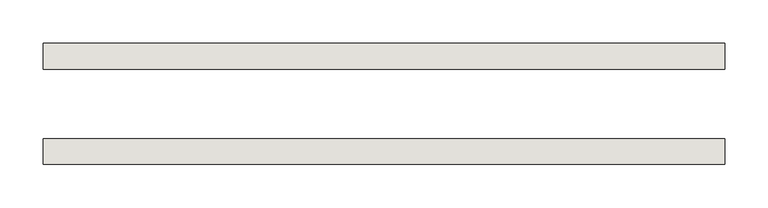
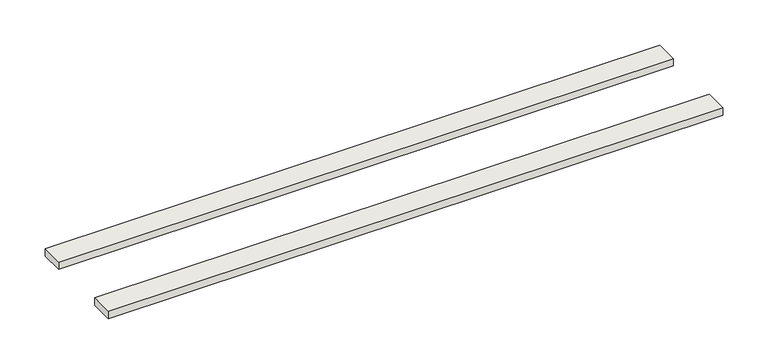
"""IFC4 building model written with IfcOpenShell, lengths in millimetres: wall geometry, Sealent : Sealent."""

from ifc_helpers import new_model, si_unit, origin, origin_with_axes, place, context, project, spatial, polyline, outline, extrude, source, transform, mapped, element, save


def wall_cd78c861(model_context):
    return source(origin(), model_context, "Body", "SweptSolid", [
        extrude(outline(polyline([(17903.9399253, 15013.3863455), (18691.0136184, 15013.3863455), (18691.0136184, 14983.3863455), (17903.9399253, 14983.3863455), (17903.9399253, 15013.3863455)])), origin_with_axes(), (0.0, 0.0, 1.0), 10.0132587),
        extrude(outline(polyline([(18691.0136184, 14903.3863455), (18691.0136184, 14873.3863455), (17903.9399253, 14873.3863455), (17903.9399253, 14903.3863455), (18691.0136184, 14903.3863455)])), origin_with_axes(), (0.0, 0.0, 1.0), 10.0132587),
    ])


if __name__ == "__main__":
    model = new_model("IFC4")
    model_context = context("Model", 3, world=origin())
    ifc_project = project(units=[si_unit("LENGTHUNIT", "METRE", prefix="MILLI")], contexts=[model_context])
    site = spatial("IfcSite", under=ifc_project)
    building = spatial("IfcBuilding", under=site)
    placement = place(None, origin())
    wall_shape = wall_cd78c861(model_context)
    element("IfcWall", 1, ObjectType="Sealent : Sealent", at=placement, inside=building, context=model_context, shape_type="MappedRepresentation", body=[
        mapped(wall_shape, transform((0.0, 0.0, 0.0), x_axis=(1.0, 0.0, 0.0), y_axis=(0.0, 1.0, 0.0), z_axis=(0.0, 0.0, 1.0))),
    ])
    save(model, "model.ifc")
